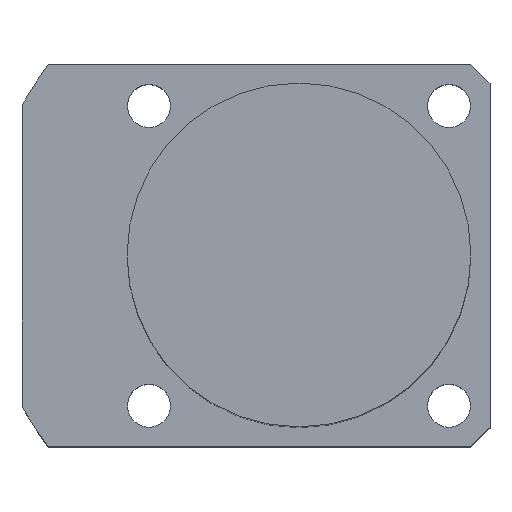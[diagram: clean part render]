
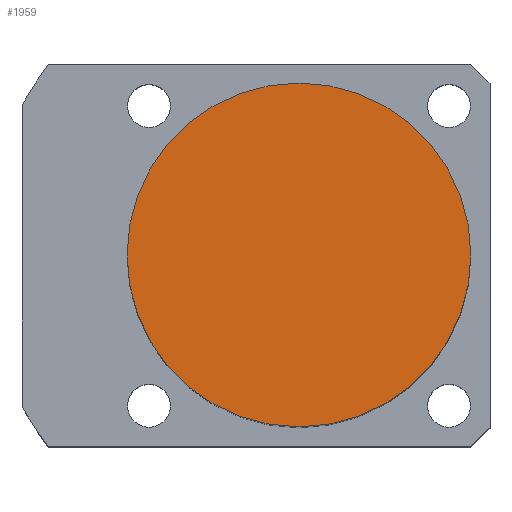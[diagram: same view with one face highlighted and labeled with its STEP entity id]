
A CAD part, top view. The second image highlights one B-rep face of the part: STEP entity #1959.
In plain terms, the highlighted planar face has unit normal (0, 0, 1).
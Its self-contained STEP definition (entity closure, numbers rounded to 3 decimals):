
#1903=CARTESIAN_POINT('',(0.0,-18.0,63.5));
#1904=VERTEX_POINT('',#1903);
#1911=CARTESIAN_POINT('',(-0.0,18.0,63.5));
#1912=VERTEX_POINT('',#1911);
#1913=CARTESIAN_POINT('',(0.0,0.0,63.5));
#1914=DIRECTION('',(0.0,0.0,1.0));
#1915=DIRECTION('',(1.0,0.0,0.0));
#1916=AXIS2_PLACEMENT_3D('',#1913,#1914,#1915);
#1917=CIRCLE('',#1916,18.0);
#1918=EDGE_CURVE('no 2127',#1912,#1904,#1917,.T.);
#1935=CARTESIAN_POINT('',(18.0,0.0,63.5));
#1936=VERTEX_POINT('',#1935);
#1937=CARTESIAN_POINT('',(0.0,0.0,63.5));
#1938=DIRECTION('',(0.0,0.0,1.0));
#1939=DIRECTION('',(1.0,0.0,0.0));
#1940=AXIS2_PLACEMENT_3D('',#1937,#1938,#1939);
#1941=CIRCLE('',#1940,18.0);
#1942=EDGE_CURVE('no 2142',#1936,#1912,#1941,.T.);
#1943=ORIENTED_EDGE('',*,*,#1942,.T.);
#1944=ORIENTED_EDGE('',*,*,#1918,.T.);
#1945=CARTESIAN_POINT('',(0.0,0.0,63.5));
#1946=DIRECTION('',(0.0,0.0,1.0));
#1947=DIRECTION('',(1.0,0.0,0.0));
#1948=AXIS2_PLACEMENT_3D('',#1945,#1946,#1947);
#1949=CIRCLE('',#1948,18.0);
#1950=EDGE_CURVE('no 2148',#1904,#1936,#1949,.T.);
#1951=ORIENTED_EDGE('',*,*,#1950,.T.);
#1952=EDGE_LOOP('',(#1943,#1944,#1951));
#1953=FACE_OUTER_BOUND('',#1952,.T.);
#1954=CARTESIAN_POINT('',(0.0,0.0,63.5));
#1955=DIRECTION('',(0.0,0.0,1.0));
#1956=DIRECTION('',(1.0,0.0,0.0));
#1957=AXIS2_PLACEMENT_3D('',#1954,#1955,#1956);
#1958=PLANE('',#1957);
#1959=ADVANCED_FACE('no 2135',(#1953),#1958,.T.);
